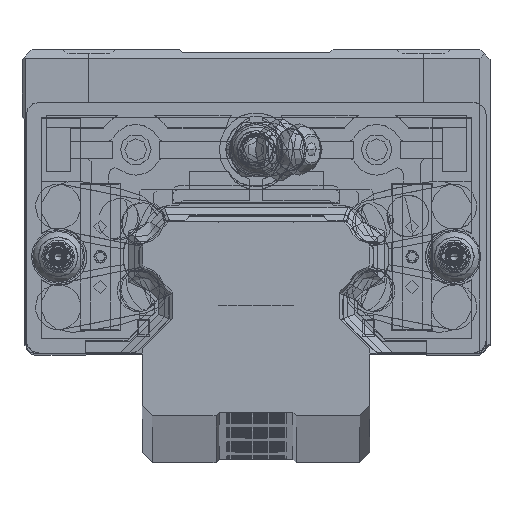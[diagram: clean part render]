
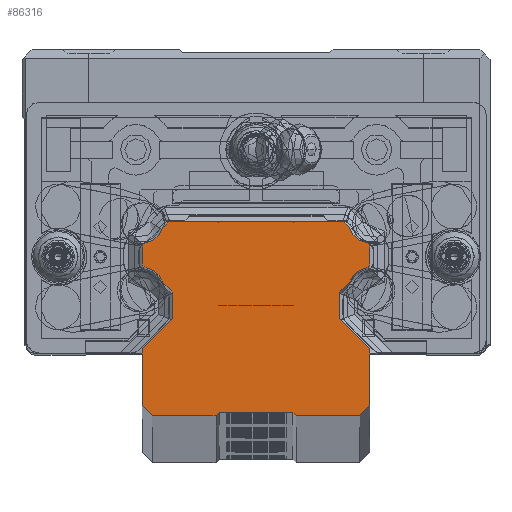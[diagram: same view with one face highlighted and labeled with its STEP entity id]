
A CAD part, top view. The second image highlights one B-rep face of the part: STEP entity #86316.
In plain terms, the highlighted planar face has unit normal (0, 0, 1).
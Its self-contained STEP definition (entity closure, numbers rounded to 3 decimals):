
#80263=DIRECTION('',(0.,-1.,0.));
#80264=VECTOR('',#80263,4.);
#80265=CARTESIAN_POINT('',(-12.5,-5.5,500.));
#80266=LINE('',#80265,#80264);
#80275=DIRECTION('',(0.,-1.,0.));
#80276=VECTOR('',#80275,8.5);
#80277=CARTESIAN_POINT('',(-17.,-14.,500.));
#80278=LINE('',#80277,#80276);
#80287=DIRECTION('',(1.,0.,0.));
#80288=VECTOR('',#80287,9.5);
#80289=CARTESIAN_POINT('',(-15.5,-24.,500.));
#80290=LINE('',#80289,#80288);
#81787=DIRECTION('',(0.,-1.,0.));
#81788=VECTOR('',#81787,2.452);
#81789=CARTESIAN_POINT('',(-17.,1.226,500.));
#81790=LINE('',#81789,#81788);
#81923=DIRECTION('',(1.,0.,0.));
#81924=VECTOR('',#81923,9.5);
#81925=CARTESIAN_POINT('',(6.,-24.,500.));
#81926=LINE('',#81925,#81924);
#81935=DIRECTION('',(0.,1.,0.));
#81936=VECTOR('',#81935,8.5);
#81937=CARTESIAN_POINT('',(17.,-22.5,500.));
#81938=LINE('',#81937,#81936);
#81947=DIRECTION('',(0.,1.,0.));
#81948=VECTOR('',#81947,4.);
#81949=CARTESIAN_POINT('',(12.5,-9.5,500.));
#81950=LINE('',#81949,#81948);
#81967=DIRECTION('',(0.,1.,0.));
#81968=VECTOR('',#81967,2.452);
#81969=CARTESIAN_POINT('',(17.,-1.226,500.));
#81970=LINE('',#81969,#81968);
#81983=CARTESIAN_POINT('',(-17.018,-5.018,500.));
#81984=DIRECTION('',(0.,0.,1.));
#81985=DIRECTION('',(0.951,0.31,0.));
#81986=AXIS2_PLACEMENT_3D('',#81983,#81984,#81985);
#81988=CARTESIAN_POINT('',(-16.35,-1.226,500.));
#81989=DIRECTION('',(0.,0.,-1.));
#81990=DIRECTION('',(-0.173,-0.985,0.));
#81991=AXIS2_PLACEMENT_3D('',#81988,#81989,#81990);
#81993=CARTESIAN_POINT('',(-16.35,1.226,500.));
#81994=DIRECTION('',(0.,0.,-1.));
#81995=DIRECTION('',(-1.,0.,0.));
#81996=AXIS2_PLACEMENT_3D('',#81993,#81994,#81995);
#81998=CARTESIAN_POINT('',(-17.018,5.018,500.));
#81999=DIRECTION('',(0.,0.,1.));
#82000=DIRECTION('',(0.173,-0.985,0.));
#82001=AXIS2_PLACEMENT_3D('',#81998,#81999,#82000);
#82003=DIRECTION('',(0.707,0.707,0.));
#82004=VECTOR('',#82003,1.158);
#82005=CARTESIAN_POINT('',(-13.929,4.181,500.));
#82006=LINE('',#82005,#82004);
#82007=DIRECTION('',(1.,0.,0.));
#82008=VECTOR('',#82007,26.22);
#82009=CARTESIAN_POINT('',(-13.11,5.,500.));
#82010=LINE('',#82009,#82008);
#82011=DIRECTION('',(0.707,-0.707,0.));
#82012=VECTOR('',#82011,1.158);
#82013=CARTESIAN_POINT('',(13.11,5.,500.));
#82014=LINE('',#82013,#82012);
#82015=CARTESIAN_POINT('',(17.018,5.018,500.));
#82016=DIRECTION('',(0.,0.,1.));
#82017=DIRECTION('',(-0.965,-0.261,0.));
#82018=AXIS2_PLACEMENT_3D('',#82015,#82016,#82017);
#82020=CARTESIAN_POINT('',(16.35,1.226,500.));
#82021=DIRECTION('',(0.,0.,-1.));
#82022=DIRECTION('',(0.173,0.985,0.));
#82023=AXIS2_PLACEMENT_3D('',#82020,#82021,#82022);
#82025=CARTESIAN_POINT('',(16.35,-1.226,500.));
#82026=DIRECTION('',(0.,0.,-1.));
#82027=DIRECTION('',(1.,0.,0.));
#82028=AXIS2_PLACEMENT_3D('',#82025,#82026,#82027);
#82030=CARTESIAN_POINT('',(17.018,-5.018,500.));
#82031=DIRECTION('',(0.,0.,1.));
#82032=DIRECTION('',(-0.173,0.985,0.));
#82033=AXIS2_PLACEMENT_3D('',#82030,#82031,#82032);
#82035=DIRECTION('',(-0.707,-0.707,0.));
#82036=VECTOR('',#82035,2.087);
#82037=CARTESIAN_POINT('',(13.976,-4.024,500.));
#82038=LINE('',#82037,#82036);
#82039=DIRECTION('',(0.707,-0.707,0.));
#82040=VECTOR('',#82039,6.364);
#82041=CARTESIAN_POINT('',(12.5,-9.5,500.));
#82042=LINE('',#82041,#82040);
#82043=DIRECTION('',(-0.707,-0.707,0.));
#82044=VECTOR('',#82043,2.121);
#82045=CARTESIAN_POINT('',(17.,-22.5,500.));
#82046=LINE('',#82045,#82044);
#82047=DIRECTION('',(-0.707,0.707,0.));
#82048=VECTOR('',#82047,0.707);
#82049=CARTESIAN_POINT('',(6.,-24.,500.));
#82050=LINE('',#82049,#82048);
#82051=DIRECTION('',(-1.,0.,0.));
#82052=VECTOR('',#82051,11.);
#82053=CARTESIAN_POINT('',(5.5,-23.5,500.));
#82054=LINE('',#82053,#82052);
#82055=DIRECTION('',(-0.707,-0.707,0.));
#82056=VECTOR('',#82055,0.707);
#82057=CARTESIAN_POINT('',(-5.5,-23.5,500.));
#82058=LINE('',#82057,#82056);
#82059=DIRECTION('',(-0.707,0.707,0.));
#82060=VECTOR('',#82059,2.121);
#82061=CARTESIAN_POINT('',(-15.5,-24.,500.));
#82062=LINE('',#82061,#82060);
#82063=DIRECTION('',(0.707,0.707,0.));
#82064=VECTOR('',#82063,6.364);
#82065=CARTESIAN_POINT('',(-17.,-14.,500.));
#82066=LINE('',#82065,#82064);
#82067=DIRECTION('',(-0.707,0.707,0.));
#82068=VECTOR('',#82067,2.087);
#82069=CARTESIAN_POINT('',(-12.5,-5.5,500.));
#82070=LINE('',#82069,#82068);
#83403=CARTESIAN_POINT('',(-13.976,-4.024,500.));
#83404=CARTESIAN_POINT('',(-16.463,-1.866,500.));
#83405=VERTEX_POINT('',#83403);
#83406=VERTEX_POINT('',#83404);
#83407=CARTESIAN_POINT('',(-17.,-1.226,500.));
#83408=VERTEX_POINT('',#83407);
#83409=CARTESIAN_POINT('',(-17.,1.226,500.));
#83410=VERTEX_POINT('',#83409);
#83411=CARTESIAN_POINT('',(-16.463,1.866,500.));
#83412=VERTEX_POINT('',#83411);
#83413=CARTESIAN_POINT('',(-13.929,4.181,500.));
#83414=VERTEX_POINT('',#83413);
#83415=CARTESIAN_POINT('',(-13.11,5.,500.));
#83416=VERTEX_POINT('',#83415);
#83417=CARTESIAN_POINT('',(13.11,5.,500.));
#83418=VERTEX_POINT('',#83417);
#83471=CARTESIAN_POINT('',(13.929,4.181,500.));
#83472=VERTEX_POINT('',#83471);
#83473=CARTESIAN_POINT('',(16.463,1.866,500.));
#83474=VERTEX_POINT('',#83473);
#83475=CARTESIAN_POINT('',(17.,1.226,500.));
#83476=VERTEX_POINT('',#83475);
#83477=CARTESIAN_POINT('',(17.,-1.226,500.));
#83478=VERTEX_POINT('',#83477);
#83479=CARTESIAN_POINT('',(16.463,-1.866,500.));
#83480=VERTEX_POINT('',#83479);
#83481=CARTESIAN_POINT('',(13.976,-4.024,500.));
#83482=VERTEX_POINT('',#83481);
#83483=CARTESIAN_POINT('',(12.5,-5.5,500.));
#83484=VERTEX_POINT('',#83483);
#83485=CARTESIAN_POINT('',(12.5,-9.5,500.));
#83486=VERTEX_POINT('',#83485);
#83487=CARTESIAN_POINT('',(17.,-14.,500.));
#83488=VERTEX_POINT('',#83487);
#83489=CARTESIAN_POINT('',(17.,-22.5,500.));
#83490=VERTEX_POINT('',#83489);
#83491=CARTESIAN_POINT('',(15.5,-24.,500.));
#83492=VERTEX_POINT('',#83491);
#83493=CARTESIAN_POINT('',(6.,-24.,500.));
#83494=VERTEX_POINT('',#83493);
#83495=CARTESIAN_POINT('',(5.5,-23.5,500.));
#83496=VERTEX_POINT('',#83495);
#83497=CARTESIAN_POINT('',(-5.5,-23.5,500.));
#83498=VERTEX_POINT('',#83497);
#83551=CARTESIAN_POINT('',(-6.,-24.,500.));
#83552=VERTEX_POINT('',#83551);
#83553=CARTESIAN_POINT('',(-15.5,-24.,500.));
#83554=VERTEX_POINT('',#83553);
#83555=CARTESIAN_POINT('',(-17.,-22.5,500.));
#83556=VERTEX_POINT('',#83555);
#83557=CARTESIAN_POINT('',(-17.,-14.,500.));
#83558=VERTEX_POINT('',#83557);
#83559=CARTESIAN_POINT('',(-12.5,-9.5,500.));
#83560=VERTEX_POINT('',#83559);
#83561=CARTESIAN_POINT('',(-12.5,-5.5,500.));
#83562=VERTEX_POINT('',#83561);
#86281=CARTESIAN_POINT('',(0.,0.,500.));
#86282=DIRECTION('',(0.,0.,1.));
#86283=DIRECTION('',(1.,0.,0.));
#86284=AXIS2_PLACEMENT_3D('',#86281,#86282,#86283);
#86285=PLANE('',#86284);
#86286=ORIENTED_EDGE('',*,*,#84326,.T.);
#86287=ORIENTED_EDGE('',*,*,#86046,.T.);
#86288=ORIENTED_EDGE('',*,*,#86032,.F.);
#86289=ORIENTED_EDGE('',*,*,#86017,.T.);
#86290=ORIENTED_EDGE('',*,*,#86002,.T.);
#86291=ORIENTED_EDGE('',*,*,#85987,.T.);
#86292=ORIENTED_EDGE('',*,*,#84821,.T.);
#86293=ORIENTED_EDGE('',*,*,#86276,.T.);
#86294=ORIENTED_EDGE('',*,*,#86263,.T.);
#86295=ORIENTED_EDGE('',*,*,#86249,.T.);
#86296=ORIENTED_EDGE('',*,*,#86235,.F.);
#86297=ORIENTED_EDGE('',*,*,#86221,.T.);
#86298=ORIENTED_EDGE('',*,*,#86207,.T.);
#86299=ORIENTED_EDGE('',*,*,#86193,.T.);
#86300=ORIENTED_EDGE('',*,*,#86179,.F.);
#86301=ORIENTED_EDGE('',*,*,#86165,.T.);
#86302=ORIENTED_EDGE('',*,*,#86151,.F.);
#86303=ORIENTED_EDGE('',*,*,#86137,.T.);
#86304=ORIENTED_EDGE('',*,*,#86123,.F.);
#86305=ORIENTED_EDGE('',*,*,#86109,.T.);
#86306=ORIENTED_EDGE('',*,*,#84446,.T.);
#86307=ORIENTED_EDGE('',*,*,#84431,.T.);
#86308=ORIENTED_EDGE('',*,*,#84416,.F.);
#86309=ORIENTED_EDGE('',*,*,#84401,.T.);
#86310=ORIENTED_EDGE('',*,*,#84386,.F.);
#86311=ORIENTED_EDGE('',*,*,#84371,.T.);
#86312=ORIENTED_EDGE('',*,*,#84356,.F.);
#86313=ORIENTED_EDGE('',*,*,#84341,.T.);
#86314=EDGE_LOOP('',(#86286,#86287,#86288,#86289,#86290,#86291,#86292,#86293,
#86294,#86295,#86296,#86297,#86298,#86299,#86300,#86301,#86302,#86303,#86304,
#86305,#86306,#86307,#86308,#86309,#86310,#86311,#86312,#86313));
#86315=FACE_OUTER_BOUND('',#86314,.F.);
#86316=ADVANCED_FACE('',(#86315),#86285,.T.);
#81987=CIRCLE('',#81986,3.2);
#81992=CIRCLE('',#81991,0.65);
#81997=CIRCLE('',#81996,0.65);
#82002=CIRCLE('',#82001,3.2);
#82019=CIRCLE('',#82018,3.2);
#82024=CIRCLE('',#82023,0.65);
#82029=CIRCLE('',#82028,0.65);
#82034=CIRCLE('',#82033,3.2);
#84326=EDGE_CURVE('',#83405,#83406,#81987,.T.);
#84341=EDGE_CURVE('',#83562,#83405,#82070,.T.);
#84356=EDGE_CURVE('',#83562,#83560,#80266,.T.);
#84371=EDGE_CURVE('',#83558,#83560,#82066,.T.);
#84386=EDGE_CURVE('',#83558,#83556,#80278,.T.);
#84401=EDGE_CURVE('',#83554,#83556,#82062,.T.);
#84416=EDGE_CURVE('',#83554,#83552,#80290,.T.);
#84431=EDGE_CURVE('',#83498,#83552,#82058,.T.);
#84446=EDGE_CURVE('',#83496,#83498,#82054,.T.);
#84821=EDGE_CURVE('',#83416,#83418,#82010,.T.);
#85987=EDGE_CURVE('',#83414,#83416,#82006,.T.);
#86002=EDGE_CURVE('',#83412,#83414,#82002,.T.);
#86017=EDGE_CURVE('',#83410,#83412,#81997,.T.);
#86032=EDGE_CURVE('',#83410,#83408,#81790,.T.);
#86046=EDGE_CURVE('',#83406,#83408,#81992,.T.);
#86109=EDGE_CURVE('',#83494,#83496,#82050,.T.);
#86123=EDGE_CURVE('',#83494,#83492,#81926,.T.);
#86137=EDGE_CURVE('',#83490,#83492,#82046,.T.);
#86151=EDGE_CURVE('',#83490,#83488,#81938,.T.);
#86165=EDGE_CURVE('',#83486,#83488,#82042,.T.);
#86179=EDGE_CURVE('',#83486,#83484,#81950,.T.);
#86193=EDGE_CURVE('',#83482,#83484,#82038,.T.);
#86207=EDGE_CURVE('',#83480,#83482,#82034,.T.);
#86221=EDGE_CURVE('',#83478,#83480,#82029,.T.);
#86235=EDGE_CURVE('',#83478,#83476,#81970,.T.);
#86249=EDGE_CURVE('',#83474,#83476,#82024,.T.);
#86263=EDGE_CURVE('',#83472,#83474,#82019,.T.);
#86276=EDGE_CURVE('',#83418,#83472,#82014,.T.);
